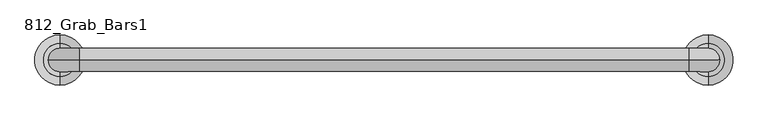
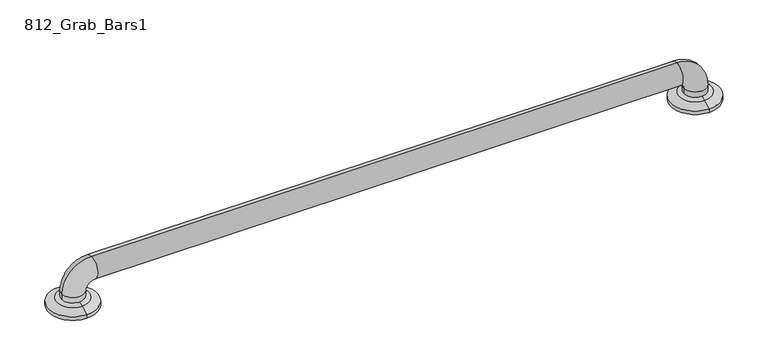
"""IFC4 building model written with IfcOpenShell, lengths in millimetres: proxy geometry, 812_Grab_Bars1 : 8122-001420."""

import ifcopenshell
import ifcopenshell.guid

model = None  # the IFC model being written
_history = None  # IfcOwnerHistory: only IFC2X3 demands one
_inside = {}  # id of a spatial element -> (the spatial element, [elements in it])
_under = {}  # id of a project, library or spatial element -> (it, [spatial elements below it])
_declared = {}  # id of a project -> (the project, [libraries it declares])
_typed = {}  # id of a type object -> (the type object, [elements of that type])
_made_of = {}  # id of a material, layer set ... -> (it, [elements and type objects made of it])


def new_model(schema):
    """Start an empty IFC model of exactly this schema.

    Asked for "IFC4X3", IfcOpenShell would pick the latest addendum, in which some entities
    have other attributes; the version numbers below select the first issue.
    IFC2X3 requires an IfcOwnerHistory on every rooted entity: one is made here for all.
    """
    global model, _history
    if schema == "IFC4X3":
        model = ifcopenshell.file(schema_version=(4, 3, 0, 0))
    else:
        model = ifcopenshell.file(schema=schema)
    _inside.clear()
    _under.clear()
    _declared.clear()
    _typed.clear()
    _made_of.clear()
    _history = None
    if model.schema == "IFC2X3":
        org = make("IfcOrganization", Name="unknown")
        user = make(
            "IfcPersonAndOrganization",
            ThePerson=make("IfcPerson", FamilyName="unknown"),
            TheOrganization=org,
        )
        app = make(
            "IfcApplication",
            ApplicationDeveloper=org,
            Version="unknown",
            ApplicationFullName="unknown",
            ApplicationIdentifier="unknown",
        )
        _history = make(
            "IfcOwnerHistory",
            OwningUser=user,
            OwningApplication=app,
            ChangeAction="ADDED",
            CreationDate=0,
        )
    return model


def make(cls, **values):
    """One entity of the class cls with the attributes given. An attribute that is None is left unset."""
    return model.create_entity(
        cls, **{name: value for name, value in values.items() if value is not None}
    )


def rooted(cls, **values):
    """An entity with a GlobalId (a new one), such as an element, a storey or a relation."""
    return make(cls, GlobalId=ifcopenshell.guid.new(), OwnerHistory=_history, **values)


def si_unit(unit_type, name, prefix=None):
    """IfcSIUnit, for example si_unit("LENGTHUNIT", "METRE", prefix="MILLI")."""
    return make("IfcSIUnit", UnitType=unit_type, Prefix=prefix, Name=name)


def assignment(units):
    """IfcUnitAssignment: the units of a project."""
    return None if units is None else make("IfcUnitAssignment", Units=units)


def point(xyz):
    """IfcCartesianPoint."""
    return None if xyz is None else make("IfcCartesianPoint", Coordinates=xyz)


def direction(xyz):
    """IfcDirection."""
    return None if xyz is None else make("IfcDirection", DirectionRatios=xyz)


def frame(location, z_axis=None, x_axis=None):
    """IfcAxis2Placement3D, a coordinate frame: its origin and axes. An axis left out is left unset."""
    return make(
        "IfcAxis2Placement3D",
        Location=point(location),
        Axis=direction(z_axis),
        RefDirection=direction(x_axis),
    )


def origin():
    """The frame at (0, 0, 0) with its axes left unset."""
    return frame((0.0, 0.0, 0.0))


def place(relative_to, where):
    """IfcLocalPlacement: puts the frame where relative to a parent placement (None: the world)."""
    return make(
        "IfcLocalPlacement", PlacementRelTo=relative_to, RelativePlacement=where
    )


def context(
    kind, dimensions, precision=None, world=None, true_north=None, identifier=None
):
    """IfcGeometricRepresentationContext, for example the 3D "Model" context."""
    return make(
        "IfcGeometricRepresentationContext",
        ContextIdentifier=identifier,
        ContextType=kind,
        CoordinateSpaceDimension=dimensions,
        Precision=precision,
        WorldCoordinateSystem=world,
        TrueNorth=true_north,
    )


def project(units=None, contexts=None):
    """IfcProject with its units and contexts."""
    return rooted(
        "IfcProject",
        Name="project",
        RepresentationContexts=contexts,
        UnitsInContext=assignment(units),
    )


def spatial(cls, under=None, at=None, **own):
    """A site, building, storey or space (cls), placed at a placement, below another one or the project."""
    s = rooted(cls, ObjectPlacement=at, **own)
    if under is not None:
        _under.setdefault(under.id(), (under, []))[1].append(s)
    return s


def polyline(points):
    """IfcPolyline through the points."""
    return make("IfcPolyline", Points=[point(p) for p in points])


def circle_curve(where, radius):
    """IfcCircle in the frame where."""
    return make("IfcCircle", Position=where, Radius=radius)


def ellipse_curve(where, semi_axis1, semi_axis2):
    """IfcEllipse in the frame where."""
    return make(
        "IfcEllipse", Position=where, SemiAxis1=semi_axis1, SemiAxis2=semi_axis2
    )


def trimmed(basis, trim1, trim2, sense, master):
    """IfcTrimmedCurve: the piece of a basis curve between two trims."""
    return make(
        "IfcTrimmedCurve",
        BasisCurve=basis,
        Trim1=trim1,
        Trim2=trim2,
        SenseAgreement=sense,
        MasterRepresentation=master,
    )


def shape(context_of_items, identifier, shape_type, items):
    """IfcShapeRepresentation: the items that make up one representation, for example the "Body"."""
    return make(
        "IfcShapeRepresentation",
        ContextOfItems=context_of_items,
        RepresentationIdentifier=identifier,
        RepresentationType=shape_type,
        Items=items,
    )


def source(mapping_origin, context_of_items, identifier, shape_type, items):
    """IfcRepresentationMap: a shape defined once, which mapped items show again and again."""
    return make(
        "IfcRepresentationMap",
        MappingOrigin=mapping_origin,
        MappedRepresentation=shape(context_of_items, identifier, shape_type, items),
    )


def transform(
    local_origin,
    x_axis=None,
    y_axis=None,
    z_axis=None,
    scale=None,
    scale2=None,
    scale3=None,
    uniform=True,
):
    """IfcCartesianTransformationOperator3D, or its non-uniform kind. x_axis, y_axis, z_axis: its Axis1, 2, 3."""
    if uniform:
        return make(
            "IfcCartesianTransformationOperator3D",
            Axis1=direction(x_axis),
            Axis2=direction(y_axis),
            LocalOrigin=point(local_origin),
            Scale=scale,
            Axis3=direction(z_axis),
        )
    return make(
        "IfcCartesianTransformationOperator3DnonUniform",
        Axis1=direction(x_axis),
        Axis2=direction(y_axis),
        LocalOrigin=point(local_origin),
        Scale=scale,
        Axis3=direction(z_axis),
        Scale2=scale2,
        Scale3=scale3,
    )


def mapped(mapping_source, mapping_target):
    """IfcMappedItem: shows the shape of a source again, moved by a transform."""
    return make(
        "IfcMappedItem", MappingSource=mapping_source, MappingTarget=mapping_target
    )


def made_of(thing, what):
    """Note that an element or type object is made of a material, layer set ...; save() writes the relation."""
    if what is not None:
        _made_of.setdefault(what.id(), (what, []))[1].append(thing)
    return thing


def element(
    cls,
    number,
    at=None,
    inside=None,
    cuts=None,
    type_object=None,
    material=None,
    context=None,
    identifier="Body",
    shape_type=None,
    held_by="IfcProductDefinitionShape",
    body=None,
    shapes=None,
    **own,
):
    """One element of the class cls, such as IfcWall. Its Tag is "e" and its number.

    at: its placement. inside: the storey or other place that contains it. cuts: it is an
    opening in that element (IfcRelVoidsElement). A single representation is given by context,
    identifier, shape_type and body (its items); several are given by shapes. held_by: the class
    of the entity that holds the representations. save() writes the other relations.
    """
    e = rooted(cls, Tag="e%d" % number, ObjectPlacement=at, **own)
    if body is not None:
        shapes = [shape(context, identifier, shape_type, body)]
    if shapes is not None:
        e.Representation = make(held_by, Representations=shapes)
    if inside is not None:
        _inside.setdefault(inside.id(), (inside, []))[1].append(e)
    if cuts is not None:
        rooted(
            "IfcRelVoidsElement", RelatingBuildingElement=cuts, RelatedOpeningElement=e
        )
    if type_object is not None:
        _typed.setdefault(type_object.id(), (type_object, []))[1].append(e)
    return made_of(e, material)


def aggregate(whole, parts):
    """IfcRelAggregates: a whole, such as a stair, and the parts it consists of."""
    return rooted("IfcRelAggregates", RelatingObject=whole, RelatedObjects=parts)


def save(model, path):
    """Write the relations noted so far, then the file.

    IfcRelAggregates (storeys below a building ...), IfcRelContainedInSpatialStructure (elements
    in a storey), IfcRelDefinesByType, IfcRelAssociatesMaterial and IfcRelDeclares: one each for
    every whole, place, type object, material and project.
    """
    for whole, parts in _under.values():
        aggregate(whole, parts)
    for where, things in _inside.values():
        rooted(
            "IfcRelContainedInSpatialStructure",
            RelatedElements=things,
            RelatingStructure=where,
        )
    for kind, things in _typed.values():
        rooted("IfcRelDefinesByType", RelatedObjects=things, RelatingType=kind)
    for what, things in _made_of.values():
        rooted("IfcRelAssociatesMaterial", RelatedObjects=things, RelatingMaterial=what)
    for by, libraries in _declared.values():
        rooted("IfcRelDeclares", RelatingContext=by, RelatedDefinitions=libraries)
    model.write(path)


def plane_surface(at):
    """IfcPlane: the flat surface through the origin of the frame at, square to its z axis."""
    return make("IfcPlane", Position=at)


def cylinder_surface(at, radius):
    """IfcCylindricalSurface: all points at the distance radius from the z axis of the frame at."""
    return make("IfcCylindricalSurface", Position=at, Radius=radius)


def revolved_surface(curve, axis_point, axis_direction):
    """IfcSurfaceOfRevolution: the curve turned about the line through axis_point along axis_direction."""
    return make(
        "IfcSurfaceOfRevolution",
        SweptCurve=make("IfcArbitraryOpenProfileDef", ProfileType="CURVE", Curve=curve),
        AxisPosition=make("IfcAxis1Placement", Location=point(axis_point), Axis=direction(axis_direction)),
    )


def advanced_brep(points, edges, surfaces, faces):
    """IfcAdvancedBrep: a solid bounded by faces that lie on surfaces and meet in shared edges.

    An edge is (start, end): straight between two places in points (the first is 0);
    or (start, end, curve); or (start, end, curve, False) where it runs against its curve.
    A face is (place in surfaces, loops), or (place, loops, False) where it looks against
    its surface's normal. A loop lists edges by number (the first is 1), with a minus sign
    where the edge is run from its end to its start. The first loop is the outer one.
    """
    corners = [point(p) for p in points]
    vertices = [make("IfcVertexPoint", VertexGeometry=c) for c in corners]
    made = []
    for start, end, *more in edges:
        made.append(
            make(
                "IfcEdgeCurve",
                EdgeStart=vertices[start],
                EdgeEnd=vertices[end],
                EdgeGeometry=more[0] if more else make("IfcPolyline", Points=[corners[start], corners[end]]),
                SameSense=more[1] if len(more) > 1 else True,
            )
        )
    hull = []
    for where, loops, *sense in faces:
        bounds = []
        for j, loop in enumerate(loops):
            ring = [make("IfcOrientedEdge", EdgeElement=made[abs(k) - 1], Orientation=k > 0) for k in loop]
            bounds.append(
                make(
                    "IfcFaceOuterBound" if j == 0 else "IfcFaceBound",
                    Bound=make("IfcEdgeLoop", EdgeList=ring),
                    Orientation=True,
                )
            )
        hull.append(make("IfcAdvancedFace", Bounds=bounds, FaceSurface=surfaces[where], SameSense=sense[0] if sense else True))
    return make("IfcAdvancedBrep", Outer=make("IfcClosedShell", CfsFaces=hull))


def proxy_812_grab_bars1_cd5c3015(model_context):
    return source(origin(), model_context, "Body", "AdvancedBrep", [
        advanced_brep(
        [(-477.8375, -564.1630987, 13.1934507), (-477.8375, -508.9869013, 13.1934507), (-477.8375, -495.3, 6.35), (-477.8375, -577.85, 6.35), (-477.8375, -555.625, 15.7178454), (-496.8875, -536.575, 15.7178454), (-477.8375, -517.525, 15.7178454), (-458.7875, -536.575, 15.7178454), (-477.8375, -577.85, 0.0), (-477.8375, -495.3, 0.0), (-477.8375, -517.525, 0.0), (-477.8375, -536.575, 0.0), (-477.8375, -555.625, 0.0), (-496.8875, -536.575, 25.4), (-458.7875, -536.575, 25.4), (-446.0875, -536.575, 76.2), (-446.0875, -536.575, 38.1), (557.2125, -536.575, 76.2), (557.2125, -536.575, 38.1), (608.0125, -536.575, 25.4), (569.9125, -536.575, 25.4), (588.9625, -577.85, 0.0), (588.9625, -495.3, 0.0), (608.0125, -536.575, 15.7178454), (588.9625, -517.525, 15.7178454), (569.9125, -536.575, 15.7178454), (588.9625, -555.625, 15.7178454), (588.9625, -564.1630987, 13.1934507), (588.9625, -508.9869013, 13.1934507), (588.9625, -495.3, 6.35), (588.9625, -577.85, 6.35)],
        [
            (0, 1, circle_curve(frame((-477.8375, -536.575, 13.1934507), z_axis=(0.0, 0.0, -1.0), x_axis=(0.0, 1.0, 0.0)), 27.5880987)),
            (1, 2),
            (2, 3, circle_curve(frame((-477.8375, -536.575, 6.35), z_axis=(0.0, 0.0, 1.0), x_axis=(0.0, 1.0, 0.0)), 41.275)),
            (3, 0),
            (1, 0, circle_curve(frame((-477.8375, -536.575, 13.1934507), z_axis=(0.0, 0.0, -1.0), x_axis=(0.0, 1.0, 0.0)), 27.5880987)),
            (3, 2, circle_curve(frame((-477.8375, -536.575, 6.35), z_axis=(0.0, 0.0, 1.0), x_axis=(0.0, 1.0, 0.0)), 41.275)),
            (0, 4, circle_curve(frame((-477.8375, -552.8038734, -9.525), z_axis=(-1.0, 0.0, 0.0), x_axis=(0.0, 0.0, -1.0)), 25.4)),
            (4, 5, circle_curve(frame((-477.8375, -536.575, 15.7178454), z_axis=(0.0, 0.0, -1.0), x_axis=(0.0, 1.0, 0.0)), 19.05)),
            (5, 6, circle_curve(frame((-477.8375, -536.575, 15.7178454), z_axis=(0.0, 0.0, -1.0), x_axis=(0.0, 1.0, 0.0)), 19.05)),
            (6, 1, circle_curve(frame((-477.8375, -520.3461266, -9.525), z_axis=(-1.0, 0.0, 0.0), x_axis=(0.0, 0.0, -1.0)), 25.4)),
            (6, 7, circle_curve(frame((-477.8375, -536.575, 15.7178454), z_axis=(0.0, 0.0, -1.0), x_axis=(0.0, 1.0, 0.0)), 19.05)),
            (7, 4, circle_curve(frame((-477.8375, -536.575, 15.7178454), z_axis=(0.0, 0.0, -1.0), x_axis=(0.0, 1.0, 0.0)), 19.05)),
            (8, 9, circle_curve(frame((-477.8375, -536.575, 0.0), z_axis=(0.0, 0.0, -1.0), x_axis=(0.0, 1.0, 0.0)), 41.275)),
            (9, 10),
            (10, 11),
            (11, 12),
            (12, 8),
            (9, 8, circle_curve(frame((-477.8375, -536.575, 0.0), z_axis=(0.0, 0.0, -1.0), x_axis=(0.0, 1.0, 0.0)), 41.275)),
            (2, 9),
            (8, 3),
            (13, 14, circle_curve(frame((-477.8375, -536.575, 25.4), z_axis=(0.0, 0.0, -1.0), x_axis=(1.0, 0.0, 0.0)), 19.05)),
            (14, 7),
            (5, 13),
            (14, 13, circle_curve(frame((-477.8375, -536.575, 25.4), z_axis=(0.0, 0.0, -1.0), x_axis=(1.0, 0.0, 0.0)), 19.05)),
            (13, 15, circle_curve(frame((-446.0875, -536.575, 25.4), z_axis=(0.0, 1.0, 0.0), x_axis=(-1.0, 0.0, 0.0)), 50.8)),
            (15, 16, circle_curve(frame((-446.0875, -536.575, 57.15), z_axis=(-1.0, 0.0, 0.0), x_axis=(0.0, 0.0, -1.0)), 19.05)),
            (16, 14, circle_curve(frame((-446.0875, -536.575, 25.4), z_axis=(0.0, -1.0, 0.0), x_axis=(-1.0, 0.0, 0.0)), 12.7)),
            (16, 15, circle_curve(frame((-446.0875, -536.575, 57.15), z_axis=(-1.0, 0.0, 0.0), x_axis=(0.0, 0.0, -1.0)), 19.05)),
            (15, 17),
            (17, 18, circle_curve(frame((557.2125, -536.575, 57.15), z_axis=(-1.0, 0.0, 0.0), x_axis=(0.0, 0.0, -1.0)), 19.05)),
            (18, 16),
            (18, 17, circle_curve(frame((557.2125, -536.575, 57.15), z_axis=(-1.0, 0.0, 0.0), x_axis=(0.0, 0.0, -1.0)), 19.05)),
            (17, 19, circle_curve(frame((557.2125, -536.575, 25.4), z_axis=(0.0, 1.0, 0.0), x_axis=(0.0, 0.0, 1.0)), 50.8)),
            (19, 20, circle_curve(frame((588.9625, -536.575, 25.4), z_axis=(0.0, 0.0, 1.0), x_axis=(-1.0, 0.0, 0.0)), 19.05)),
            (20, 18, circle_curve(frame((557.2125, -536.575, 25.4), z_axis=(0.0, -1.0, 0.0), x_axis=(0.0, 0.0, 1.0)), 12.7)),
            (20, 19, circle_curve(frame((588.9625, -536.575, 25.4), z_axis=(0.0, 0.0, 1.0), x_axis=(-1.0, 0.0, 0.0)), 19.05)),
            (21, 22, circle_curve(frame((588.9625, -536.575, 0.0), z_axis=(0.0, 0.0, -1.0), x_axis=(0.0, 1.0, 0.0)), 41.275)),
            (22, 21, circle_curve(frame((588.9625, -536.575, 0.0), z_axis=(0.0, 0.0, -1.0), x_axis=(0.0, 1.0, 0.0)), 41.275)),
            (19, 23),
            (23, 24, circle_curve(frame((588.9625, -536.575, 15.7178454), z_axis=(0.0, 0.0, 1.0), x_axis=(-1.0, 0.0, 0.0)), 19.05)),
            (24, 25, circle_curve(frame((588.9625, -536.575, 15.7178454), z_axis=(0.0, 0.0, 1.0), x_axis=(-1.0, 0.0, 0.0)), 19.05)),
            (25, 20),
            (25, 26, circle_curve(frame((588.9625, -536.575, 15.7178454), z_axis=(0.0, 0.0, 1.0), x_axis=(-1.0, 0.0, 0.0)), 19.05)),
            (26, 23, circle_curve(frame((588.9625, -536.575, 15.7178454), z_axis=(0.0, 0.0, 1.0), x_axis=(-1.0, 0.0, 0.0)), 19.05)),
            (27, 28, circle_curve(frame((588.9625, -536.575, 13.1934507), z_axis=(0.0, 0.0, -1.0), x_axis=(0.0, 1.0, 0.0)), 27.5880987)),
            (28, 29),
            (29, 30, circle_curve(frame((588.9625, -536.575, 6.35), z_axis=(0.0, 0.0, 1.0), x_axis=(0.0, 1.0, 0.0)), 41.275)),
            (30, 27),
            (28, 27, circle_curve(frame((588.9625, -536.575, 13.1934507), z_axis=(0.0, 0.0, -1.0), x_axis=(0.0, 1.0, 0.0)), 27.5880987)),
            (30, 29, circle_curve(frame((588.9625, -536.575, 6.35), z_axis=(0.0, 0.0, 1.0), x_axis=(0.0, 1.0, 0.0)), 41.275)),
            (27, 26, circle_curve(frame((588.9625, -552.8038734, -9.525), z_axis=(-1.0, 0.0, 0.0), x_axis=(0.0, 0.0, -1.0)), 25.4)),
            (24, 28, circle_curve(frame((588.9625, -520.3461266, -9.525), z_axis=(-1.0, 0.0, 0.0), x_axis=(0.0, 0.0, -1.0)), 25.4)),
            (29, 22),
            (21, 30),
        ],
        [
            revolved_surface(polyline([(-477.8375, -495.3, 6.35), (-477.8375, -508.9869013, 13.1934507)]), (-477.8375, -536.575, 31.75), (0.0, 0.0, 1.0)),
            revolved_surface(trimmed(ellipse_curve(frame((-477.8375, -520.3461266, -9.525), z_axis=(1.0, 0.0, 0.0), x_axis=(0.0, 0.0, -1.0)), 25.4, 25.4), [point((-477.8375, -508.9869013, 13.1934507))], [point((-477.8375, -520.3461266, 15.875))], True, "CARTESIAN"), (-477.8375, -536.575, 31.75), (0.0, 0.0, 1.0)),
            plane_surface(frame((-477.8375, -536.575, 0.0), z_axis=(0.0, 0.0, -1.0), x_axis=(0.0, 1.0, 0.0))),
            cylinder_surface(frame((-477.8375, -536.575, 31.75), z_axis=(0.0, 0.0, 1.0), x_axis=(0.0, 1.0, 0.0)), 41.275),
            cylinder_surface(frame((-477.8375, -536.575, 0.0), z_axis=(0.0, 0.0, -1.0), x_axis=(1.0, 0.0, 0.0)), 19.05),
            revolved_surface(trimmed(ellipse_curve(frame((-477.8375, -536.575, 25.4), z_axis=(0.0, 0.0, -1.0), x_axis=(1.0, 0.0, 0.0)), 19.05, 19.05), [point((-496.8875, -536.575, 25.4))], [point((-458.7875, -536.575, 25.4))], True, "CARTESIAN"), (-446.0875, -536.575, 25.4), (0.0, 1.0, 0.0)),
            revolved_surface(trimmed(ellipse_curve(frame((-477.8375, -536.575, 25.4), z_axis=(0.0, 0.0, -1.0), x_axis=(1.0, 0.0, 0.0)), 19.05, 19.05), [point((-458.7875, -536.575, 25.4))], [point((-496.8875, -536.575, 25.4))], True, "CARTESIAN"), (-446.0875, -536.575, 25.4), (0.0, 1.0, 0.0)),
            cylinder_surface(frame((-446.0875, -536.575, 57.15), z_axis=(-1.0, 0.0, 0.0), x_axis=(0.0, 0.0, -1.0)), 19.05),
            revolved_surface(trimmed(ellipse_curve(frame((557.2125, -536.575, 57.15), z_axis=(-1.0, 0.0, 0.0), x_axis=(0.0, 0.0, -1.0)), 19.05, 19.05), [point((557.2125, -536.575, 76.2))], [point((557.2125, -536.575, 38.1))], True, "CARTESIAN"), (557.2125, -536.575, 25.4), (0.0, 1.0, 0.0)),
            revolved_surface(trimmed(ellipse_curve(frame((557.2125, -536.575, 57.15), z_axis=(-1.0, 0.0, 0.0), x_axis=(0.0, 0.0, -1.0)), 19.05, 19.05), [point((557.2125, -536.575, 38.1))], [point((557.2125, -536.575, 76.2))], True, "CARTESIAN"), (557.2125, -536.575, 25.4), (0.0, 1.0, 0.0)),
            plane_surface(frame((588.9625, -536.575, 0.0), z_axis=(0.0, 0.0, -1.0), x_axis=(0.0, 1.0, 0.0))),
            cylinder_surface(frame((588.9625, -536.575, 25.4), z_axis=(0.0, 0.0, 1.0), x_axis=(-1.0, 0.0, 0.0)), 19.05),
            revolved_surface(polyline([(588.9625, -495.3, 6.35), (588.9625, -508.9869013, 13.1934507)]), (588.9625, -536.575, -29.0642853), (0.0, 0.0, 1.0)),
            revolved_surface(trimmed(ellipse_curve(frame((588.9625, -520.3461266, -9.525), z_axis=(1.0, 0.0, 0.0), x_axis=(0.0, 0.0, -1.0)), 25.4, 25.4), [point((588.9625, -508.9869013, 13.1934507))], [point((588.9625, -520.3461266, 15.875))], True, "CARTESIAN"), (588.9625, -536.575, -29.0642853), (0.0, 0.0, 1.0)),
            cylinder_surface(frame((588.9625, -536.575, -29.0642853), z_axis=(0.0, 0.0, 1.0), x_axis=(0.0, 1.0, 0.0)), 41.275),
        ],
        [
            (0, [[1, 2, 3, 4]]),
            (0, [[-2, 5, -4, 6]]),
            (1, [[-1, 7, 8, 9, 10]]),
            (1, [[-5, -10, 11, 12, -7]]),
            (2, [[13, 14, 15, 16, 17]]),
            (2, [[18, -17, -16, -15, -14]]),
            (3, [[-3, 19, -13, 20]]),
            (3, [[-6, -20, -18, -19]]),
            (4, [[21, 22, -11, -9, 23]]),
            (4, [[24, -23, -8, -12, -22]]),
            (5, [[-21, 25, 26, 27]]),
            (6, [[-24, -27, 28, -25]]),
            (7, [[-26, 29, 30, 31]]),
            (7, [[-28, -31, 32, -29]]),
            (8, [[-30, 33, 34, 35]]),
            (9, [[-32, -35, 36, -33]]),
            (10, [[37, 38]]),
            (11, [[-34, 39, 40, 41, 42]]),
            (11, [[-36, -42, 43, 44, -39]]),
            (12, [[45, 46, 47, 48]]),
            (12, [[-46, 49, -48, 50]]),
            (13, [[-45, 51, -43, -41, 52]]),
            (13, [[-49, -52, -40, -44, -51]]),
            (14, [[-47, 53, -37, 54]]),
            (14, [[-50, -54, -38, -53]]),
        ],
    ),
    ])


if __name__ == "__main__":
    model = new_model("IFC4")
    model_context = context("Model", 3, world=origin())
    ifc_project = project(units=[si_unit("LENGTHUNIT", "METRE", prefix="MILLI")], contexts=[model_context])
    site = spatial("IfcSite", under=ifc_project)
    building = spatial("IfcBuilding", under=site)
    placement = place(None, origin())
    proxy_812_grab_bars1_shape = proxy_812_grab_bars1_cd5c3015(model_context)
    element("IfcBuildingElementProxy", 1, Name="812_Grab_Bars1 : 8122-001420", ObjectType="812_Grab_Bars1 : 8122-001420", at=placement, inside=building, context=model_context, shape_type="MappedRepresentation", body=[
        mapped(proxy_812_grab_bars1_shape, transform((0.0, 0.0, 0.0), x_axis=(1.0, 0.0, 0.0), y_axis=(0.0, 1.0, 0.0), z_axis=(0.0, 0.0, 1.0))),
    ])
    save(model, "model.ifc")
